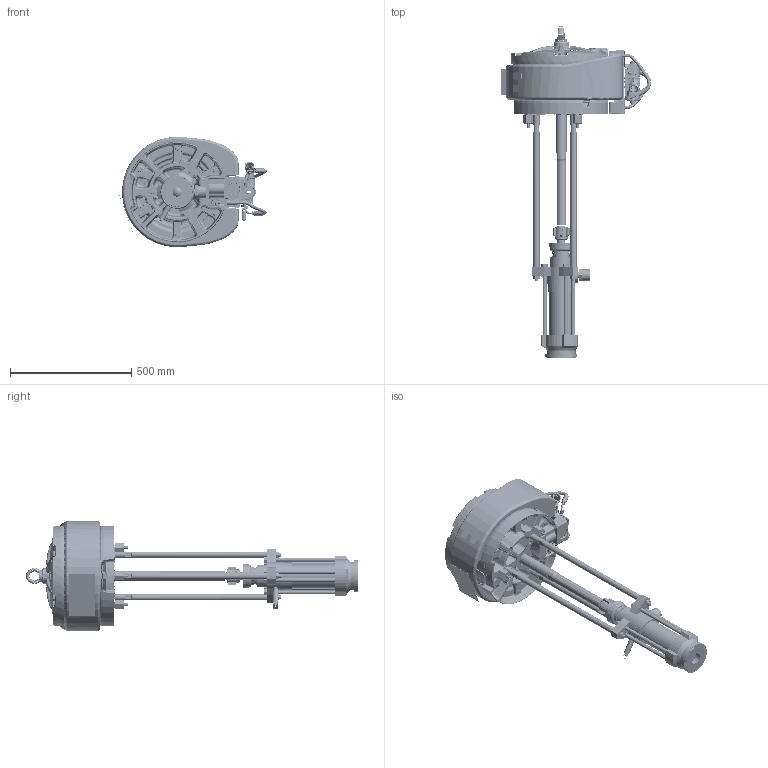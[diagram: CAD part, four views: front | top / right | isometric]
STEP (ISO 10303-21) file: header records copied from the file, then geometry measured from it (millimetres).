
FILE_DESCRIPTION((''),'2;1');
FILE_NAME('P47LCS-EN-E_PRT','2020-05-28T13:58:27',('qusrh3'),(''),'CREO PARAMETRIC BY PTC INC, 2019030','CREO PARAMETRIC BY PTC INC, 2019030','');
FILE_SCHEMA(('CONFIG_CONTROL_DESIGN'));
Length unit declared in the file: inch
Products named in the file (1): P47LCS-EN-E_PRT
Bounding box: 615.56 x 1366.39 x 454.59 mm (x, y, z)
Surface area: 3687359.3 mm2 (no closed solid volume)
Topology: 0 solids, 634 shells, 4142 faces, 16936 edges, 12925 vertices
Faces by surface type: plane 1209, cylinder 892, bspline 879, cone 599, torus 553, extrusion 6, sphere 4
Entity records: 245893 total; most frequent: CARTESIAN_POINT 124914, ORIENTED_EDGE 23205, DIRECTION 21407, EDGE_CURVE 16929, VERTEX_POINT 12925, AXIS2_PLACEMENT_3D 8515, B_SPLINE_CURVE_WITH_KNOTS 7306, CIRCLE 5256
